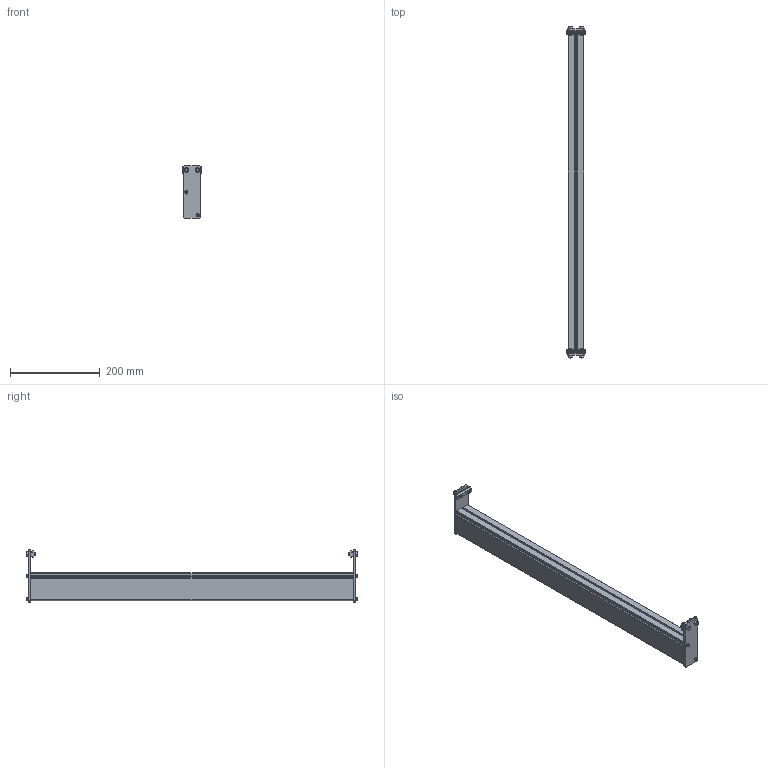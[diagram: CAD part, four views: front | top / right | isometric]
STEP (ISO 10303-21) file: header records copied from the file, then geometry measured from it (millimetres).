
FILE_DESCRIPTION((''),'2;1');
FILE_NAME('350974-28_ASM','2023-03-22T',('jenni.wallner'),(''),'PRO/ENGINEER BY PARAMETRIC TECHNOLOGY CORPORATION, 2012420','PRO/ENGINEER BY PARAMETRIC TECHNOLOGY CORPORATION, 2012420','');
FILE_SCHEMA(('CONFIG_CONTROL_DESIGN'));
Length unit declared in the file: inch
Products named in the file (6): 350979-02827; 350978; 200830M; 920616M; 920416M; 350974-28_ASM
Assembly tree (13 placements, depth 2):
  350974-28_ASM
    350979-02827
    350978  x2
    200830M  x2
    920616M  x4
    920416M  x4
Bounding box: 44.45 x 739.15 x 116.98 mm (x, y, z)
Volume: 616523.1 mm3; surface area: 393282.4 mm2
Topology: 13 solids, 17 shells, 342 faces, 868 edges, 568 vertices
Faces by surface type: plane 168, cylinder 142, cone 32
Entity records: 5990 total; most frequent: DIRECTION 1076, CARTESIAN_POINT 1015, ORIENTED_EDGE 972, EDGE_CURVE 490, AXIS2_PLACEMENT_3D 385, VERTEX_POINT 324, VECTOR 306, LINE 306
